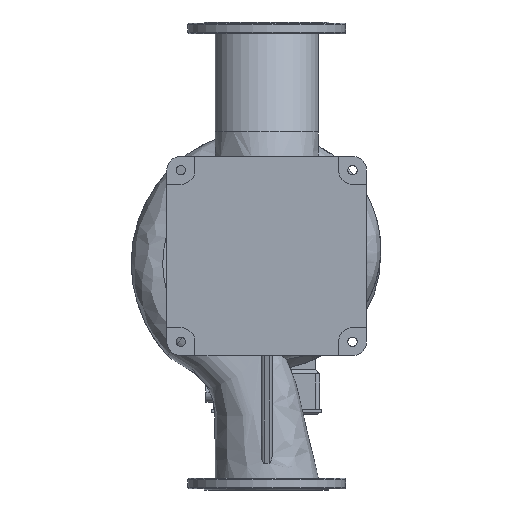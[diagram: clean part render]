
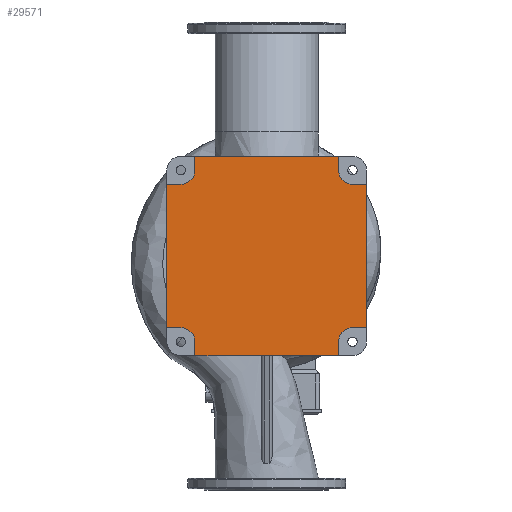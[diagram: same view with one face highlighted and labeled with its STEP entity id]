
A CAD part, front view. The second image highlights one B-rep face of the part: STEP entity #29571.
In plain terms, the highlighted planar face has unit normal (0, -1, 0).
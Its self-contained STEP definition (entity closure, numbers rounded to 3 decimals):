
#132 = VECTOR ( 'NONE', #12845, 1000. ) ;
#237 = CARTESIAN_POINT ( 'NONE',  ( -184., -300., -220. ) ) ;
#454 = VERTEX_POINT ( 'NONE', #19818 ) ;
#498 = ORIENTED_EDGE ( 'NONE', *, *, #13324, .T. ) ;
#760 = VECTOR ( 'NONE', #14628, 1000. ) ;
#1311 = CARTESIAN_POINT ( 'NONE',  ( 220., -300., -184. ) ) ;
#1950 = CARTESIAN_POINT ( 'NONE',  ( -184., -300., -256. ) ) ;
#1965 = EDGE_CURVE ( 'NONE', #22279, #9791, #24120, .T. ) ;
#2102 = VECTOR ( 'NONE', #5013, 1000. ) ;
#2317 = DIRECTION ( 'NONE',  ( 1., 0., 0. ) ) ;
#2497 = CARTESIAN_POINT ( 'NONE',  ( 184., -300., 220. ) ) ;
#2725 = VECTOR ( 'NONE', #2317, 1000. ) ;
#2901 = DIRECTION ( 'NONE',  ( 0., 0., 1. ) ) ;
#3347 = VERTEX_POINT ( 'NONE', #25809 ) ;
#3843 = CARTESIAN_POINT ( 'NONE',  ( -220., -300., 184. ) ) ;
#4532 = ORIENTED_EDGE ( 'NONE', *, *, #16251, .T. ) ;
#4700 = LINE ( 'NONE', #1311, #23485 ) ;
#4752 = FACE_OUTER_BOUND ( 'NONE', #17390, .T. ) ;
#4871 = ORIENTED_EDGE ( 'NONE', *, *, #28723, .T. ) ;
#5013 = DIRECTION ( 'NONE',  ( 1., 0., 0. ) ) ;
#5106 = CIRCLE ( 'NONE', #32632, 36. ) ;
#5124 = EDGE_CURVE ( 'NONE', #30975, #18303, #23409, .T. ) ;
#5493 = VECTOR ( 'NONE', #20366, 1000. ) ;
#6067 = CARTESIAN_POINT ( 'NONE',  ( -184., -300., 256. ) ) ;
#6142 = AXIS2_PLACEMENT_3D ( 'NONE', #34521, #12803, #28787 ) ;
#6695 = CIRCLE ( 'NONE', #22181, 36. ) ;
#6735 = EDGE_CURVE ( 'NONE', #14725, #17307, #27917, .T. ) ;
#6775 = ORIENTED_EDGE ( 'NONE', *, *, #26327, .T. ) ;
#7074 = CARTESIAN_POINT ( 'NONE',  ( -220., -300., 184. ) ) ;
#7341 = VECTOR ( 'NONE', #18299, 1000. ) ;
#7468 = VERTEX_POINT ( 'NONE', #18315 ) ;
#7518 = CARTESIAN_POINT ( 'NONE',  ( 220., -300., -184. ) ) ;
#7584 = VECTOR ( 'NONE', #35262, 1000. ) ;
#7765 = ORIENTED_EDGE ( 'NONE', *, *, #15273, .T. ) ;
#9013 = VERTEX_POINT ( 'NONE', #25488 ) ;
#9408 = DIRECTION ( 'NONE',  ( 1., 0., 0. ) ) ;
#9652 = VERTEX_POINT ( 'NONE', #18470 ) ;
#9661 = CARTESIAN_POINT ( 'NONE',  ( -220., -300., -220. ) ) ;
#9781 = VERTEX_POINT ( 'NONE', #7518 ) ;
#9791 = VERTEX_POINT ( 'NONE', #1950 ) ;
#9977 = VECTOR ( 'NONE', #14211, 1000. ) ;
#10002 = CIRCLE ( 'NONE', #34661, 36. ) ;
#10186 = CARTESIAN_POINT ( 'NONE',  ( -184., -300., -220. ) ) ;
#10530 = EDGE_CURVE ( 'NONE', #24802, #9013, #15758, .T. ) ;
#10593 = CARTESIAN_POINT ( 'NONE',  ( 184., -300., -256. ) ) ;
#11140 = EDGE_CURVE ( 'NONE', #18303, #14725, #15360, .T. ) ;
#12266 = ORIENTED_EDGE ( 'NONE', *, *, #35521, .T. ) ;
#12669 = CARTESIAN_POINT ( 'NONE',  ( 220., -300., 184. ) ) ;
#12803 = DIRECTION ( 'NONE',  ( 0., 1., 0. ) ) ;
#12845 = DIRECTION ( 'NONE',  ( -1., 0., 0. ) ) ;
#12866 = ORIENTED_EDGE ( 'NONE', *, *, #31575, .T. ) ;
#13324 = EDGE_CURVE ( 'NONE', #31893, #24802, #14098, .T. ) ;
#13923 = DIRECTION ( 'NONE',  ( 0., 0., 1. ) ) ;
#13949 = ORIENTED_EDGE ( 'NONE', *, *, #14686, .T. ) ;
#14036 = CARTESIAN_POINT ( 'NONE',  ( -184., -300., 220. ) ) ;
#14098 = LINE ( 'NONE', #3843, #760 ) ;
#14211 = DIRECTION ( 'NONE',  ( 0., 0., -1. ) ) ;
#14526 = VERTEX_POINT ( 'NONE', #15658 ) ;
#14628 = DIRECTION ( 'NONE',  ( -1., 0., 0. ) ) ;
#14686 = EDGE_CURVE ( 'NONE', #14526, #9652, #19066, .T. ) ;
#14725 = VERTEX_POINT ( 'NONE', #24625 ) ;
#15273 = EDGE_CURVE ( 'NONE', #3347, #22279, #10002, .T. ) ;
#15360 = LINE ( 'NONE', #12669, #132 ) ;
#15658 = CARTESIAN_POINT ( 'NONE',  ( -184., -300., 256. ) ) ;
#15758 = LINE ( 'NONE', #34959, #25492 ) ;
#15836 = DIRECTION ( 'NONE',  ( 0., 1., 0. ) ) ;
#15933 = DIRECTION ( 'NONE',  ( 0., 0., -1. ) ) ;
#16145 = LINE ( 'NONE', #2497, #7341 ) ;
#16251 = EDGE_CURVE ( 'NONE', #9013, #3347, #26557, .T. ) ;
#16252 = PLANE ( 'NONE',  #26316 ) ;
#17307 = VERTEX_POINT ( 'NONE', #22165 ) ;
#17390 = EDGE_LOOP ( 'NONE', ( #7765, #31490, #12266, #12866, #4871, #20070, #24074, #22829, #20200, #22194, #6775, #13949, #28823, #498, #33184, #4532 ) ) ;
#17852 = VECTOR ( 'NONE', #13923, 1000. ) ;
#18299 = DIRECTION ( 'NONE',  ( 0., 0., 1. ) ) ;
#18303 = VERTEX_POINT ( 'NONE', #27238 ) ;
#18315 = CARTESIAN_POINT ( 'NONE',  ( 184., -300., 256. ) ) ;
#18386 = VECTOR ( 'NONE', #19885, 1000. ) ;
#18470 = CARTESIAN_POINT ( 'NONE',  ( -184., -300., 220. ) ) ;
#19052 = LINE ( 'NONE', #6067, #18386 ) ;
#19066 = LINE ( 'NONE', #14036, #9977 ) ;
#19070 = CARTESIAN_POINT ( 'NONE',  ( 220., -300., -220. ) ) ;
#19589 = VERTEX_POINT ( 'NONE', #22326 ) ;
#19818 = CARTESIAN_POINT ( 'NONE',  ( 184., -300., -256. ) ) ;
#19885 = DIRECTION ( 'NONE',  ( -1., 0., 0. ) ) ;
#20070 = ORIENTED_EDGE ( 'NONE', *, *, #27300, .T. ) ;
#20200 = ORIENTED_EDGE ( 'NONE', *, *, #6735, .T. ) ;
#20366 = DIRECTION ( 'NONE',  ( 0., 0., 1. ) ) ;
#20587 = DIRECTION ( 'NONE',  ( 0., 0., 1. ) ) ;
#21616 = DIRECTION ( 'NONE',  ( 0., 1., 0. ) ) ;
#22165 = CARTESIAN_POINT ( 'NONE',  ( 184., -300., 220. ) ) ;
#22181 = AXIS2_PLACEMENT_3D ( 'NONE', #29300, #23560, #23736 ) ;
#22194 = ORIENTED_EDGE ( 'NONE', *, *, #27838, .T. ) ;
#22279 = VERTEX_POINT ( 'NONE', #10186 ) ;
#22326 = CARTESIAN_POINT ( 'NONE',  ( 184., -300., -220. ) ) ;
#22829 = ORIENTED_EDGE ( 'NONE', *, *, #11140, .T. ) ;
#23409 = LINE ( 'NONE', #28625, #5493 ) ;
#23485 = VECTOR ( 'NONE', #9408, 1000. ) ;
#23560 = DIRECTION ( 'NONE',  ( 0., 1., 0. ) ) ;
#23695 = CARTESIAN_POINT ( 'NONE',  ( -220., -300., -184. ) ) ;
#23736 = DIRECTION ( 'NONE',  ( 0., 0., 1. ) ) ;
#24074 = ORIENTED_EDGE ( 'NONE', *, *, #5124, .T. ) ;
#24120 = LINE ( 'NONE', #237, #7584 ) ;
#24625 = CARTESIAN_POINT ( 'NONE',  ( 220., -300., 184. ) ) ;
#24802 = VERTEX_POINT ( 'NONE', #30113 ) ;
#25488 = CARTESIAN_POINT ( 'NONE',  ( -256., -300., -184. ) ) ;
#25492 = VECTOR ( 'NONE', #15933, 1000. ) ;
#25809 = CARTESIAN_POINT ( 'NONE',  ( -220., -300., -184. ) ) ;
#26316 = AXIS2_PLACEMENT_3D ( 'NONE', #34731, #21616, #32570 ) ;
#26327 = EDGE_CURVE ( 'NONE', #7468, #14526, #19052, .T. ) ;
#26557 = LINE ( 'NONE', #23695, #2102 ) ;
#27238 = CARTESIAN_POINT ( 'NONE',  ( 256., -300., 184. ) ) ;
#27300 = EDGE_CURVE ( 'NONE', #9781, #30975, #4700, .T. ) ;
#27838 = EDGE_CURVE ( 'NONE', #17307, #7468, #16145, .T. ) ;
#27917 = CIRCLE ( 'NONE', #6142, 36. ) ;
#28157 = DIRECTION ( 'NONE',  ( 0., 1., 0. ) ) ;
#28625 = CARTESIAN_POINT ( 'NONE',  ( 256., -300., 184. ) ) ;
#28723 = EDGE_CURVE ( 'NONE', #19589, #9781, #5106, .T. ) ;
#28787 = DIRECTION ( 'NONE',  ( 0., 0., 1. ) ) ;
#28823 = ORIENTED_EDGE ( 'NONE', *, *, #35125, .T. ) ;
#29300 = CARTESIAN_POINT ( 'NONE',  ( -220., -300., 220. ) ) ;
#29571 = ADVANCED_FACE ( 'NONE', ( #4752 ), #16252, .F. ) ;
#29612 = LINE ( 'NONE', #10593, #2725 ) ;
#30113 = CARTESIAN_POINT ( 'NONE',  ( -256., -300., 184. ) ) ;
#30975 = VERTEX_POINT ( 'NONE', #34609 ) ;
#31490 = ORIENTED_EDGE ( 'NONE', *, *, #1965, .T. ) ;
#31575 = EDGE_CURVE ( 'NONE', #454, #19589, #35459, .T. ) ;
#31893 = VERTEX_POINT ( 'NONE', #7074 ) ;
#32570 = DIRECTION ( 'NONE',  ( 0., 0., 1. ) ) ;
#32577 = CARTESIAN_POINT ( 'NONE',  ( 184., -300., -220. ) ) ;
#32632 = AXIS2_PLACEMENT_3D ( 'NONE', #19070, #15836, #2901 ) ;
#33184 = ORIENTED_EDGE ( 'NONE', *, *, #10530, .T. ) ;
#34521 = CARTESIAN_POINT ( 'NONE',  ( 220., -300., 220. ) ) ;
#34609 = CARTESIAN_POINT ( 'NONE',  ( 256., -300., -184. ) ) ;
#34661 = AXIS2_PLACEMENT_3D ( 'NONE', #9661, #28157, #20587 ) ;
#34731 = CARTESIAN_POINT ( 'NONE',  ( -220., -300., -220. ) ) ;
#34959 = CARTESIAN_POINT ( 'NONE',  ( -256., -300., -184. ) ) ;
#35125 = EDGE_CURVE ( 'NONE', #9652, #31893, #6695, .T. ) ;
#35262 = DIRECTION ( 'NONE',  ( 0., 0., -1. ) ) ;
#35459 = LINE ( 'NONE', #32577, #17852 ) ;
#35521 = EDGE_CURVE ( 'NONE', #9791, #454, #29612, .T. ) ;
